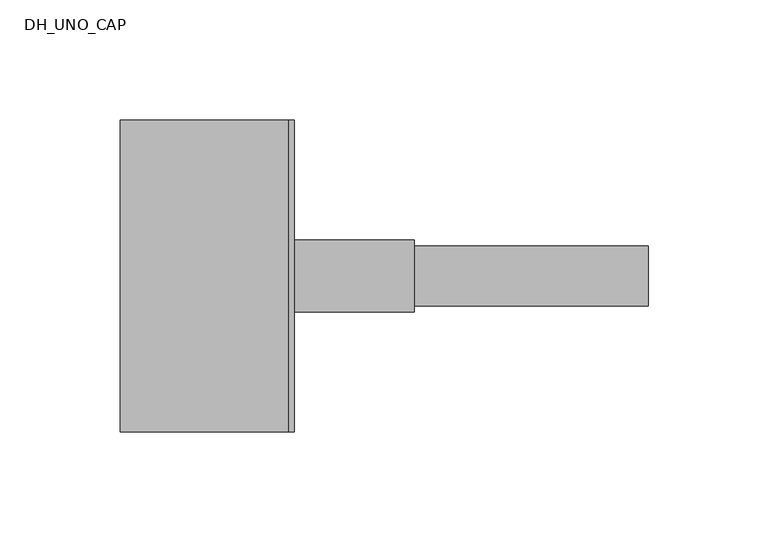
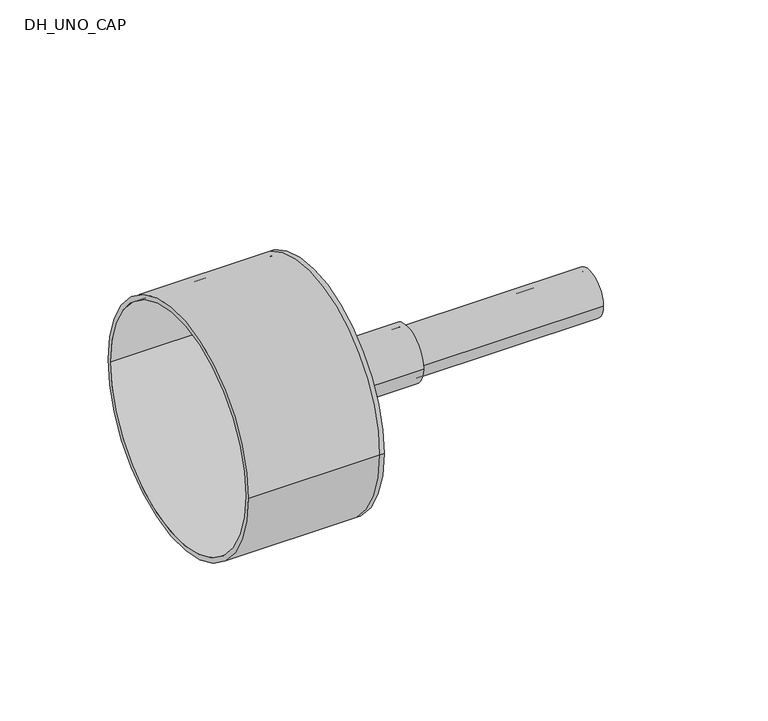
"""IFC4 building model written with IfcOpenShell, lengths in millimetres: pipe fitting geometry, DH_UNO_CAP : RAUVIPEX UNO + 11 Heating - Schrink Cap."""

import ifcopenshell
import ifcopenshell.guid

model = None  # the IFC model being written
_history = None  # IfcOwnerHistory: only IFC2X3 demands one
_inside = {}  # id of a spatial element -> (the spatial element, [elements in it])
_under = {}  # id of a project, library or spatial element -> (it, [spatial elements below it])
_declared = {}  # id of a project -> (the project, [libraries it declares])
_typed = {}  # id of a type object -> (the type object, [elements of that type])
_made_of = {}  # id of a material, layer set ... -> (it, [elements and type objects made of it])


def new_model(schema):
    """Start an empty IFC model of exactly this schema.

    Asked for "IFC4X3", IfcOpenShell would pick the latest addendum, in which some entities
    have other attributes; the version numbers below select the first issue.
    IFC2X3 requires an IfcOwnerHistory on every rooted entity: one is made here for all.
    """
    global model, _history
    if schema == "IFC4X3":
        model = ifcopenshell.file(schema_version=(4, 3, 0, 0))
    else:
        model = ifcopenshell.file(schema=schema)
    _inside.clear()
    _under.clear()
    _declared.clear()
    _typed.clear()
    _made_of.clear()
    _history = None
    if model.schema == "IFC2X3":
        org = make("IfcOrganization", Name="unknown")
        user = make(
            "IfcPersonAndOrganization",
            ThePerson=make("IfcPerson", FamilyName="unknown"),
            TheOrganization=org,
        )
        app = make(
            "IfcApplication",
            ApplicationDeveloper=org,
            Version="unknown",
            ApplicationFullName="unknown",
            ApplicationIdentifier="unknown",
        )
        _history = make(
            "IfcOwnerHistory",
            OwningUser=user,
            OwningApplication=app,
            ChangeAction="ADDED",
            CreationDate=0,
        )
    return model


def make(cls, **values):
    """One entity of the class cls with the attributes given. An attribute that is None is left unset."""
    return model.create_entity(
        cls, **{name: value for name, value in values.items() if value is not None}
    )


def rooted(cls, **values):
    """An entity with a GlobalId (a new one), such as an element, a storey or a relation."""
    return make(cls, GlobalId=ifcopenshell.guid.new(), OwnerHistory=_history, **values)


def si_unit(unit_type, name, prefix=None):
    """IfcSIUnit, for example si_unit("LENGTHUNIT", "METRE", prefix="MILLI")."""
    return make("IfcSIUnit", UnitType=unit_type, Prefix=prefix, Name=name)


def assignment(units):
    """IfcUnitAssignment: the units of a project."""
    return None if units is None else make("IfcUnitAssignment", Units=units)


def point(xyz):
    """IfcCartesianPoint."""
    return None if xyz is None else make("IfcCartesianPoint", Coordinates=xyz)


def direction(xyz):
    """IfcDirection."""
    return None if xyz is None else make("IfcDirection", DirectionRatios=xyz)


def frame(location, z_axis=None, x_axis=None):
    """IfcAxis2Placement3D, a coordinate frame: its origin and axes. An axis left out is left unset."""
    return make(
        "IfcAxis2Placement3D",
        Location=point(location),
        Axis=direction(z_axis),
        RefDirection=direction(x_axis),
    )


def frame_2d(location, x_axis=None):
    """IfcAxis2Placement2D, a coordinate frame in the plane: its origin and x axis."""
    return make(
        "IfcAxis2Placement2D", Location=point(location), RefDirection=direction(x_axis)
    )


def origin():
    """The frame at (0, 0, 0) with its axes left unset."""
    return frame((0.0, 0.0, 0.0))


def origin_2d():
    """The frame at (0, 0) in the plane with its x axis left unset."""
    return frame_2d((0.0, 0.0))


def place(relative_to, where):
    """IfcLocalPlacement: puts the frame where relative to a parent placement (None: the world)."""
    return make(
        "IfcLocalPlacement", PlacementRelTo=relative_to, RelativePlacement=where
    )


def context(
    kind, dimensions, precision=None, world=None, true_north=None, identifier=None
):
    """IfcGeometricRepresentationContext, for example the 3D "Model" context."""
    return make(
        "IfcGeometricRepresentationContext",
        ContextIdentifier=identifier,
        ContextType=kind,
        CoordinateSpaceDimension=dimensions,
        Precision=precision,
        WorldCoordinateSystem=world,
        TrueNorth=true_north,
    )


def project(units=None, contexts=None):
    """IfcProject with its units and contexts."""
    return rooted(
        "IfcProject",
        Name="project",
        RepresentationContexts=contexts,
        UnitsInContext=assignment(units),
    )


def spatial(cls, under=None, at=None, **own):
    """A site, building, storey or space (cls), placed at a placement, below another one or the project."""
    s = rooted(cls, ObjectPlacement=at, **own)
    if under is not None:
        _under.setdefault(under.id(), (under, []))[1].append(s)
    return s


def polyline(points):
    """IfcPolyline through the points."""
    return make("IfcPolyline", Points=[point(p) for p in points])


def circle_curve(where, radius):
    """IfcCircle in the frame where."""
    return make("IfcCircle", Position=where, Radius=radius)


def trimmed(basis, trim1, trim2, sense, master):
    """IfcTrimmedCurve: the piece of a basis curve between two trims."""
    return make(
        "IfcTrimmedCurve",
        BasisCurve=basis,
        Trim1=trim1,
        Trim2=trim2,
        SenseAgreement=sense,
        MasterRepresentation=master,
    )


def segment(curve, same_sense, transition):
    """IfcCompositeCurveSegment."""
    return make(
        "IfcCompositeCurveSegment",
        Transition=transition,
        SameSense=same_sense,
        ParentCurve=curve,
    )


def composite_curve(segments, self_intersect=None):
    """IfcCompositeCurve: segments joined end to end."""
    return make("IfcCompositeCurve", Segments=segments, SelfIntersect=self_intersect)


def outline(outer, holes=None, kind="AREA"):
    """IfcArbitraryClosedProfileDef: a profile drawn as a closed curve; with holes, ...WithVoids."""
    if holes is None:
        return make("IfcArbitraryClosedProfileDef", ProfileType=kind, OuterCurve=outer)
    return make(
        "IfcArbitraryProfileDefWithVoids",
        ProfileType=kind,
        OuterCurve=outer,
        InnerCurves=holes,
    )


def extrude(swept, where, along, depth):
    """IfcExtrudedAreaSolid: the profile swept, set in the frame where, extruded along a direction by depth."""
    return make(
        "IfcExtrudedAreaSolid",
        SweptArea=swept,
        Position=where,
        ExtrudedDirection=direction(along),
        Depth=depth,
    )


def shape(context_of_items, identifier, shape_type, items):
    """IfcShapeRepresentation: the items that make up one representation, for example the "Body"."""
    return make(
        "IfcShapeRepresentation",
        ContextOfItems=context_of_items,
        RepresentationIdentifier=identifier,
        RepresentationType=shape_type,
        Items=items,
    )


def source(mapping_origin, context_of_items, identifier, shape_type, items):
    """IfcRepresentationMap: a shape defined once, which mapped items show again and again."""
    return make(
        "IfcRepresentationMap",
        MappingOrigin=mapping_origin,
        MappedRepresentation=shape(context_of_items, identifier, shape_type, items),
    )


def transform(
    local_origin,
    x_axis=None,
    y_axis=None,
    z_axis=None,
    scale=None,
    scale2=None,
    scale3=None,
    uniform=True,
):
    """IfcCartesianTransformationOperator3D, or its non-uniform kind. x_axis, y_axis, z_axis: its Axis1, 2, 3."""
    if uniform:
        return make(
            "IfcCartesianTransformationOperator3D",
            Axis1=direction(x_axis),
            Axis2=direction(y_axis),
            LocalOrigin=point(local_origin),
            Scale=scale,
            Axis3=direction(z_axis),
        )
    return make(
        "IfcCartesianTransformationOperator3DnonUniform",
        Axis1=direction(x_axis),
        Axis2=direction(y_axis),
        LocalOrigin=point(local_origin),
        Scale=scale,
        Axis3=direction(z_axis),
        Scale2=scale2,
        Scale3=scale3,
    )


def mapped(mapping_source, mapping_target):
    """IfcMappedItem: shows the shape of a source again, moved by a transform."""
    return make(
        "IfcMappedItem", MappingSource=mapping_source, MappingTarget=mapping_target
    )


def made_of(thing, what):
    """Note that an element or type object is made of a material, layer set ...; save() writes the relation."""
    if what is not None:
        _made_of.setdefault(what.id(), (what, []))[1].append(thing)
    return thing


def element(
    cls,
    number,
    at=None,
    inside=None,
    cuts=None,
    type_object=None,
    material=None,
    context=None,
    identifier="Body",
    shape_type=None,
    held_by="IfcProductDefinitionShape",
    body=None,
    shapes=None,
    **own,
):
    """One element of the class cls, such as IfcWall. Its Tag is "e" and its number.

    at: its placement. inside: the storey or other place that contains it. cuts: it is an
    opening in that element (IfcRelVoidsElement). A single representation is given by context,
    identifier, shape_type and body (its items); several are given by shapes. held_by: the class
    of the entity that holds the representations. save() writes the other relations.
    """
    e = rooted(cls, Tag="e%d" % number, ObjectPlacement=at, **own)
    if body is not None:
        shapes = [shape(context, identifier, shape_type, body)]
    if shapes is not None:
        e.Representation = make(held_by, Representations=shapes)
    if inside is not None:
        _inside.setdefault(inside.id(), (inside, []))[1].append(e)
    if cuts is not None:
        rooted(
            "IfcRelVoidsElement", RelatingBuildingElement=cuts, RelatedOpeningElement=e
        )
    if type_object is not None:
        _typed.setdefault(type_object.id(), (type_object, []))[1].append(e)
    return made_of(e, material)


def aggregate(whole, parts):
    """IfcRelAggregates: a whole, such as a stair, and the parts it consists of."""
    return rooted("IfcRelAggregates", RelatingObject=whole, RelatedObjects=parts)


def save(model, path):
    """Write the relations noted so far, then the file.

    IfcRelAggregates (storeys below a building ...), IfcRelContainedInSpatialStructure (elements
    in a storey), IfcRelDefinesByType, IfcRelAssociatesMaterial and IfcRelDeclares: one each for
    every whole, place, type object, material and project.
    """
    for whole, parts in _under.values():
        aggregate(whole, parts)
    for where, things in _inside.values():
        rooted(
            "IfcRelContainedInSpatialStructure",
            RelatedElements=things,
            RelatingStructure=where,
        )
    for kind, things in _typed.values():
        rooted("IfcRelDefinesByType", RelatedObjects=things, RelatingType=kind)
    for what, things in _made_of.values():
        rooted("IfcRelAssociatesMaterial", RelatedObjects=things, RelatingMaterial=what)
    for by, libraries in _declared.values():
        rooted("IfcRelDeclares", RelatingContext=by, RelatedDefinitions=libraries)
    model.write(path)


def plane_surface(at):
    """IfcPlane: the flat surface through the origin of the frame at, square to its z axis."""
    return make("IfcPlane", Position=at)


def cylinder_surface(at, radius):
    """IfcCylindricalSurface: all points at the distance radius from the z axis of the frame at."""
    return make("IfcCylindricalSurface", Position=at, Radius=radius)


def revolved_surface(curve, axis_point, axis_direction):
    """IfcSurfaceOfRevolution: the curve turned about the line through axis_point along axis_direction."""
    return make(
        "IfcSurfaceOfRevolution",
        SweptCurve=make("IfcArbitraryOpenProfileDef", ProfileType="CURVE", Curve=curve),
        AxisPosition=make("IfcAxis1Placement", Location=point(axis_point), Axis=direction(axis_direction)),
    )


def advanced_brep(points, edges, surfaces, faces):
    """IfcAdvancedBrep: a solid bounded by faces that lie on surfaces and meet in shared edges.

    An edge is (start, end): straight between two places in points (the first is 0);
    or (start, end, curve); or (start, end, curve, False) where it runs against its curve.
    A face is (place in surfaces, loops), or (place, loops, False) where it looks against
    its surface's normal. A loop lists edges by number (the first is 1), with a minus sign
    where the edge is run from its end to its start. The first loop is the outer one.
    """
    corners = [point(p) for p in points]
    vertices = [make("IfcVertexPoint", VertexGeometry=c) for c in corners]
    made = []
    for start, end, *more in edges:
        made.append(
            make(
                "IfcEdgeCurve",
                EdgeStart=vertices[start],
                EdgeEnd=vertices[end],
                EdgeGeometry=more[0] if more else make("IfcPolyline", Points=[corners[start], corners[end]]),
                SameSense=more[1] if len(more) > 1 else True,
            )
        )
    hull = []
    for where, loops, *sense in faces:
        bounds = []
        for j, loop in enumerate(loops):
            ring = [make("IfcOrientedEdge", EdgeElement=made[abs(k) - 1], Orientation=k > 0) for k in loop]
            bounds.append(
                make(
                    "IfcFaceOuterBound" if j == 0 else "IfcFaceBound",
                    Bound=make("IfcEdgeLoop", EdgeList=ring),
                    Orientation=True,
                )
            )
        hull.append(make("IfcAdvancedFace", Bounds=bounds, FaceSurface=surfaces[where], SameSense=sense[0] if sense else True))
    return make("IfcAdvancedBrep", Outer=make("IfcClosedShell", CfsFaces=hull))


def dh_uno_cap_b0b1e030(model_context):
    return source(origin(), model_context, "Body", "SolidModel", [
        extrude(outline(composite_curve([segment(trimmed(circle_curve(origin_2d(), 12.5), [point((-12.5, 0.0))], [point((12.5, 0.0))], False, "CARTESIAN"), True, "CONTINUOUS"), segment(trimmed(circle_curve(origin_2d(), 12.5), [point((12.5, 0.0))], [point((-12.5, 0.0))], False, "CARTESIAN"), True, "CONTINUOUS")], self_intersect=False), holes=[composite_curve([segment(trimmed(circle_curve(origin_2d(), 10.2), [point((-10.2, 0.0))], [point((10.2, 0.0))], True, "CARTESIAN"), True, "CONTINUOUS"), segment(trimmed(circle_curve(origin_2d(), 10.2), [point((10.2, 0.0))], [point((-10.2, 0.0))], True, "CARTESIAN"), True, "CONTINUOUS")], self_intersect=False)]), frame((0.0, 0.0, 0.0), z_axis=(1.0, 0.0, 0.0), x_axis=(0.0, 1.0, 0.0)), (0.0, 0.0, 1.0), 150.0),
        advanced_brep(
        [(-70.0, -65.0, 0.0), (-70.0, 65.0, 0.0), (-70.0, -62.5, 0.0), (-70.0, 62.5, 0.0), (0.0, -62.5, 0.0), (0.0, 62.5, 0.0), (0.0, -65.0, 0.0), (0.0, 65.0, 0.0), (0.0, 12.5, 0.0), (0.0, -12.5, 0.0), (2.5, -65.0, 0.0), (2.5, 65.0, 0.0), (2.5, -12.5, 0.0), (2.5, 12.5, 0.0)],
        [
            (0, 1, circle_curve(frame((-70.0, 0.0, 0.0), z_axis=(-1.0, 0.0, 0.0), x_axis=(0.0, 1.0, 0.0)), 65.0)),
            (1, 0, circle_curve(frame((-70.0, 0.0, 0.0), z_axis=(-1.0, 0.0, 0.0), x_axis=(0.0, 1.0, 0.0)), 65.0)),
            (2, 3, circle_curve(frame((-70.0, 0.0, 0.0), z_axis=(1.0, 0.0, 0.0), x_axis=(0.0, 1.0, 0.0)), 62.5)),
            (3, 2, circle_curve(frame((-70.0, 0.0, 0.0), z_axis=(1.0, 0.0, 0.0), x_axis=(0.0, 1.0, 0.0)), 62.5)),
            (2, 4),
            (4, 5, circle_curve(frame((0.0, 0.0, 0.0), z_axis=(1.0, 0.0, 0.0), x_axis=(0.0, 1.0, 0.0)), 62.5)),
            (5, 3),
            (5, 4, circle_curve(frame((0.0, 0.0, 0.0), z_axis=(1.0, 0.0, 0.0), x_axis=(0.0, 1.0, 0.0)), 62.5)),
            (0, 6),
            (6, 7, circle_curve(frame((0.0, 0.0, 0.0), z_axis=(-1.0, 0.0, 0.0), x_axis=(0.0, 1.0, 0.0)), 65.0)),
            (7, 1),
            (7, 6, circle_curve(frame((0.0, 0.0, 0.0), z_axis=(-1.0, 0.0, 0.0), x_axis=(0.0, 1.0, 0.0)), 65.0)),
            (8, 9, circle_curve(frame((0.0, 0.0, 0.0), z_axis=(1.0, 0.0, 0.0), x_axis=(0.0, 1.0, 0.0)), 12.5)),
            (9, 8, circle_curve(frame((0.0, 0.0, 0.0), z_axis=(1.0, 0.0, 0.0), x_axis=(0.0, 1.0, 0.0)), 12.5)),
            (10, 11, circle_curve(frame((2.5, 0.0, 0.0), z_axis=(1.0, 0.0, 0.0), x_axis=(0.0, 1.0, 0.0)), 65.0)),
            (11, 10, circle_curve(frame((2.5, 0.0, 0.0), z_axis=(1.0, 0.0, 0.0), x_axis=(0.0, 1.0, 0.0)), 65.0)),
            (12, 13, circle_curve(frame((2.5, 0.0, 0.0), z_axis=(-1.0, 0.0, 0.0), x_axis=(0.0, 1.0, 0.0)), 12.5)),
            (13, 12, circle_curve(frame((2.5, 0.0, 0.0), z_axis=(-1.0, 0.0, 0.0), x_axis=(0.0, 1.0, 0.0)), 12.5)),
            (11, 7),
            (6, 10),
            (8, 13),
            (12, 9),
        ],
        [
            plane_surface(frame((-70.0, 0.0, 0.0), z_axis=(-1.0, 0.0, 0.0), x_axis=(0.0, 0.0, 1.0))),
            revolved_surface(polyline([(0.0, 62.5, 0.0), (-70.0, 62.5, 0.0)]), (-70.0, 0.0, 0.0), (1.0, 0.0, 0.0)),
            cylinder_surface(frame((-70.0, 0.0, 0.0), z_axis=(-1.0, 0.0, 0.0), x_axis=(0.0, 1.0, 0.0)), 65.0),
            plane_surface(frame((0.0, 0.0, 0.0), z_axis=(-1.0, 0.0, 0.0), x_axis=(0.0, 0.0, 1.0))),
            plane_surface(frame((2.5, 0.0, 0.0), z_axis=(1.0, 0.0, 0.0), x_axis=(0.0, 0.0, 1.0))),
            cylinder_surface(frame((0.0, 0.0, 0.0), z_axis=(-1.0, 0.0, 0.0), x_axis=(0.0, 1.0, 0.0)), 65.0),
            revolved_surface(polyline([(0.0, 12.5, 0.0), (2.5, 12.5, 0.0)]), (0.0, 0.0, 0.0), (-1.0, 0.0, 0.0)),
        ],
        [
            (0, [[1, 2], [3, 4]]),
            (1, [[-3, 5, 6, 7]]),
            (1, [[-4, -7, 8, -5]]),
            (2, [[-1, 9, 10, 11]]),
            (2, [[-2, -11, 12, -9]]),
            (3, [[-6, -8], [13, 14]]),
            (4, [[15, 16], [17, 18]]),
            (5, [[-16, 19, -10, 20]]),
            (5, [[-15, -20, -12, -19]]),
            (6, [[21, -17, 22, -13]]),
            (6, [[-21, -14, -22, -18]]),
        ],
    ),
        extrude(outline(composite_curve([segment(trimmed(circle_curve(origin_2d(), 15.0), [point((-15.0, 0.0))], [point((15.0, 0.0))], False, "CARTESIAN"), True, "CONTINUOUS"), segment(trimmed(circle_curve(origin_2d(), 15.0), [point((15.0, 0.0))], [point((-15.0, 0.0))], False, "CARTESIAN"), True, "CONTINUOUS")], self_intersect=False), holes=[composite_curve([segment(trimmed(circle_curve(origin_2d(), 12.5), [point((-12.5, 0.0))], [point((12.5, 0.0))], True, "CARTESIAN"), True, "CONTINUOUS"), segment(trimmed(circle_curve(origin_2d(), 12.5), [point((12.5, 0.0))], [point((-12.5, 0.0))], True, "CARTESIAN"), True, "CONTINUOUS")], self_intersect=False)]), frame((2.5, 0.0, 0.0), z_axis=(1.0, 0.0, 0.0), x_axis=(0.0, 1.0, 0.0)), (0.0, 0.0, 1.0), 50.0),
    ])


if __name__ == "__main__":
    model = new_model("IFC4")
    model_context = context("Model", 3, world=origin())
    ifc_project = project(units=[si_unit("LENGTHUNIT", "METRE", prefix="MILLI")], contexts=[model_context])
    site = spatial("IfcSite", under=ifc_project)
    building = spatial("IfcBuilding", under=site)
    placement = place(None, origin())
    dh_uno_cap_shape = dh_uno_cap_b0b1e030(model_context)
    element("IfcPipeFitting", 1, ObjectType="DH_UNO_CAP : RAUVIPEX UNO + 11 Heating - Schrink Cap", at=placement, inside=building, context=model_context, shape_type="MappedRepresentation", body=[
        mapped(dh_uno_cap_shape, transform((0.0, 0.0, 0.0), x_axis=(1.0, 0.0, 0.0), y_axis=(0.0, 1.0, 0.0), z_axis=(0.0, 0.0, 1.0))),
    ])
    save(model, "model.ifc")
